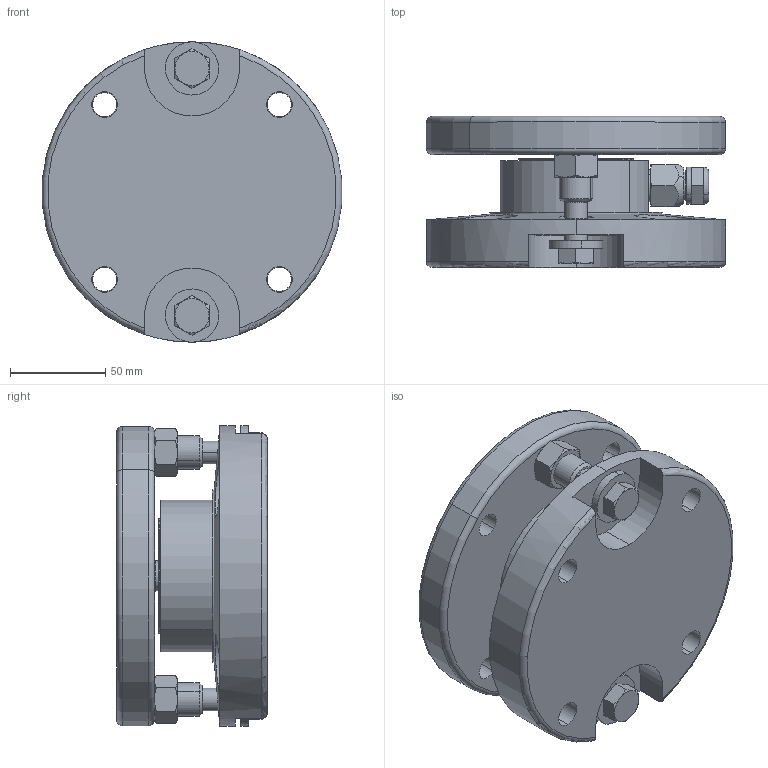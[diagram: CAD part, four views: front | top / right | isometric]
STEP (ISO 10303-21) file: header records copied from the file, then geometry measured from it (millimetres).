
FILE_DESCRIPTION (( 'STEP AP203' ), '1' );
FILE_NAME ('Load Point_HI HPLP-XX-1.1KLB-11KLB.STEP', '2013-09-27T16:42:53', ( 'Jim' ), ( 'Hewlett-Packard Company' ), 'SwSTEP 2.0', 'SolidWorks 2013', '' );
FILE_SCHEMA (( 'CONFIG_CONTROL_DESIGN' ));
Length unit declared in the file: millimetre
Products named in the file (15): 1.1KLB-11KLB - Grommet; 1.1KLB-11KLB - Base plate; 1.1KLB-11KLB - Cable Nut; 1.1KLB-11KLB - Washer; Load Sensor_HI HP50-SS-1.1KLB-11KLB; hex bolt_am_B18.2.3.5M - Hex bolt M12 x 1.75 x 55 --30S-A2.70; Load Point_HI HPLP-XX-1.1KLB-11KLB; 1.1KLB-11KLB - Alignment+Lock nut; 1.1KLB-11KLB - Element; 1.1KLB-11KLB - Diaphram; 1.1KLB-11KLB - Mount bottom plate ; 1.1KLB-11KLB - Cable adaptor; 1.1KLB-11KLB - Mount top plate; 1.1KLB-11KLB - Weld Base; 1.1KLB-11KLB - Insert
Assembly tree (18 placements, depth 3):
  Load Point_HI HPLP-XX-1.1KLB-11KLB
    1.1KLB-11KLB - Mount bottom plate 
    1.1KLB-11KLB - Mount top plate
    1.1KLB-11KLB - Insert
    1.1KLB-11KLB - Base plate
    1.1KLB-11KLB - Washer  x2
    hex bolt_am_B18.2.3.5M - Hex bolt M12 x 1.75 x 55 --30S-A2.70  x2
    1.1KLB-11KLB - Alignment+Lock nut  x2
    Load Sensor_HI HP50-SS-1.1KLB-11KLB
      1.1KLB-11KLB - Element
      1.1KLB-11KLB - Diaphram  x2
      1.1KLB-11KLB - Cable adaptor
      1.1KLB-11KLB - Weld Base
      1.1KLB-11KLB - Grommet
      1.1KLB-11KLB - Cable Nut
Bounding box: 157.45 x 79.42 x 158 mm (x, y, z)
Volume: 970094.7 mm3; surface area: 181250.3 mm2
Topology: 17 solids, 17 shells, 619 faces, 1474 edges, 914 vertices
Faces by surface type: cylinder 233, cone 226, plane 128, torus 30, sphere 2
Entity records: 15139 total; most frequent: CARTESIAN_POINT 3016, DIRECTION 2412, ORIENTED_EDGE 2040, EDGE_CURVE 1020, AXIS2_PLACEMENT_3D 1016, VERTEX_POINT 640, CIRCLE 559, EDGE_LOOP 506
